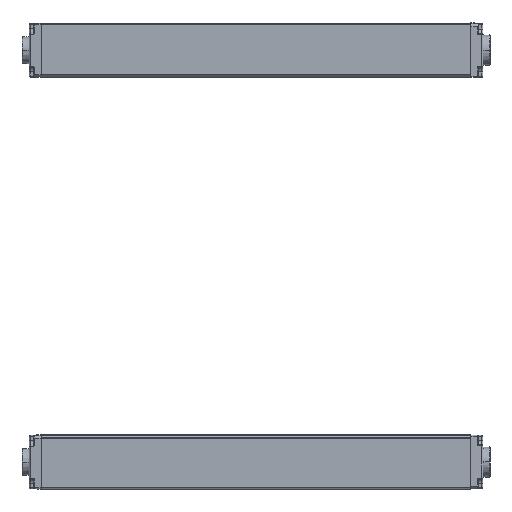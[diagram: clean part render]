
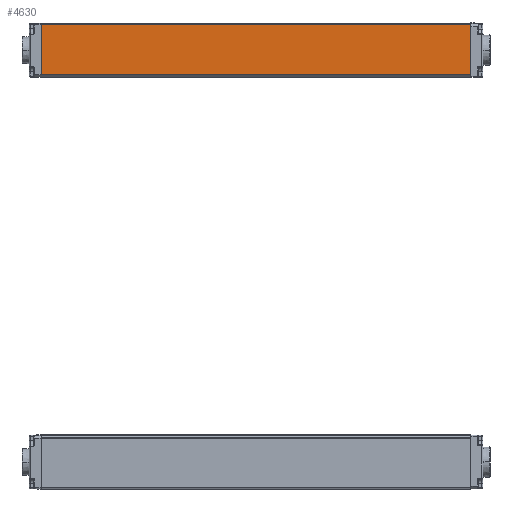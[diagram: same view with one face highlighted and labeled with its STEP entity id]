
A CAD part, left-side view. The second image highlights one B-rep face of the part: STEP entity #4630.
In plain terms, the highlighted planar face has unit normal (-1, 0, -0.009) as drawn and (-1, 0, 0) by its records, which use the part's own axes.
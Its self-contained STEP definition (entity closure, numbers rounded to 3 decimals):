
#1257 = EDGE_CURVE ( 'NONE', #13801, #16052, #17401, .T. ) ;
#1410 = AXIS2_PLACEMENT_3D ( 'NONE', #16579, #4119, #9664 ) ;
#1463 = VECTOR ( 'NONE', #17455, 1000. ) ;
#1533 = EDGE_CURVE ( 'NONE', #13801, #4144, #9434, .T. ) ;
#2115 = VECTOR ( 'NONE', #2529, 1000. ) ;
#2529 = DIRECTION ( 'NONE',  ( 0., 0., 1. ) ) ;
#2652 = ORIENTED_EDGE ( 'NONE', *, *, #1533, .F. ) ;
#3462 = VECTOR ( 'NONE', #10493, 1000. ) ;
#3998 = VERTEX_POINT ( 'NONE', #9843 ) ;
#4018 = DIRECTION ( 'NONE',  ( 0., -1., 0. ) ) ;
#4119 = DIRECTION ( 'NONE',  ( 1., 0., 0. ) ) ;
#4144 = VERTEX_POINT ( 'NONE', #6022 ) ;
#4630 = ADVANCED_FACE ( 'NONE', ( #5497 ), #11043, .F. ) ;
#4936 = CARTESIAN_POINT ( 'NONE',  ( -15., 240., -16.693 ) ) ;
#5459 = ORIENTED_EDGE ( 'NONE', *, *, #6267, .F. ) ;
#5497 = FACE_OUTER_BOUND ( 'NONE', #7533, .T. ) ;
#6022 = CARTESIAN_POINT ( 'NONE',  ( -15., 240., 10.9 ) ) ;
#6267 = EDGE_CURVE ( 'NONE', #4144, #3998, #10919, .T. ) ;
#6359 = LINE ( 'NONE', #11912, #1463 ) ;
#7533 = EDGE_LOOP ( 'NONE', ( #2652, #16521, #10426, #5459 ) ) ;
#9434 = LINE ( 'NONE', #14996, #2115 ) ;
#9664 = DIRECTION ( 'NONE',  ( 0., 0., -1. ) ) ;
#9843 = CARTESIAN_POINT ( 'NONE',  ( -15., 0., 10.9 ) ) ;
#10426 = ORIENTED_EDGE ( 'NONE', *, *, #14217, .T. ) ;
#10493 = DIRECTION ( 'NONE',  ( 0., -1., 0. ) ) ;
#10919 = LINE ( 'NONE', #16471, #14108 ) ;
#11043 = PLANE ( 'NONE',  #1410 ) ;
#11275 = CARTESIAN_POINT ( 'NONE',  ( -15., 0., -16.693 ) ) ;
#11912 = CARTESIAN_POINT ( 'NONE',  ( -15., 0., -16.9 ) ) ;
#13801 = VERTEX_POINT ( 'NONE', #16373 ) ;
#14108 = VECTOR ( 'NONE', #4018, 1000. ) ;
#14217 = EDGE_CURVE ( 'NONE', #16052, #3998, #6359, .T. ) ;
#14996 = CARTESIAN_POINT ( 'NONE',  ( -15., 240., -16.9 ) ) ;
#16052 = VERTEX_POINT ( 'NONE', #11275 ) ;
#16373 = CARTESIAN_POINT ( 'NONE',  ( -15., 240., -16.693 ) ) ;
#16471 = CARTESIAN_POINT ( 'NONE',  ( -15., 240., 10.9 ) ) ;
#16521 = ORIENTED_EDGE ( 'NONE', *, *, #1257, .T. ) ;
#16579 = CARTESIAN_POINT ( 'NONE',  ( -15., 240., -16.9 ) ) ;
#17401 = LINE ( 'NONE', #4936, #3462 ) ;
#17455 = DIRECTION ( 'NONE',  ( 0., 0., 1. ) ) ;
